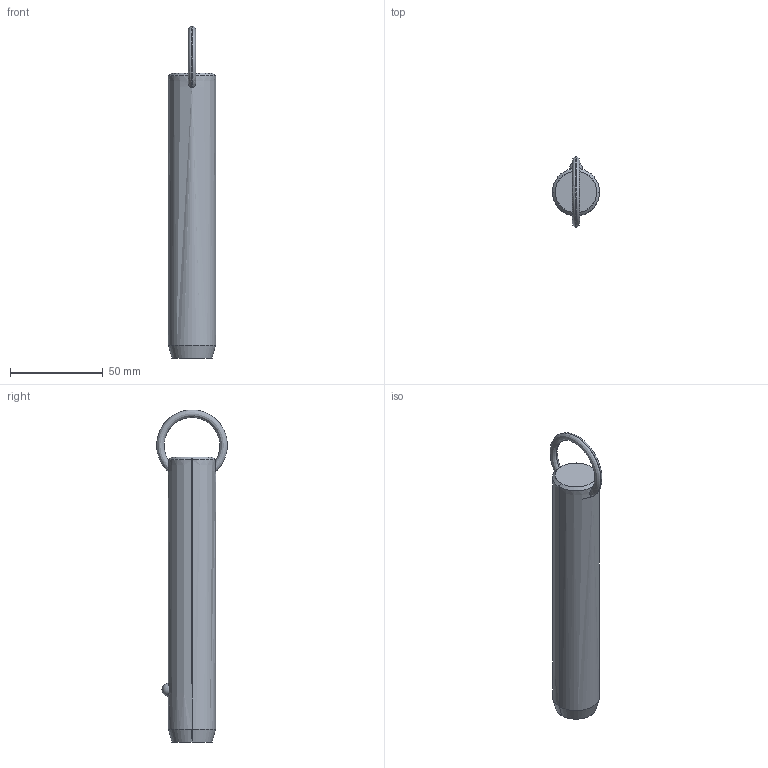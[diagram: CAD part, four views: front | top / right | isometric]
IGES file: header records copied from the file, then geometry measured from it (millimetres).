
Start section: SolidWorks IGES file using analytic representation for surfaces
Global section: file name: C:\Users\liam_\OneDrive\Documents\WORK\Work for WixRoyd\Job Files\J-00019 - Matt Davis CAD Checking\04. CAD Drawings\automotion20190605\P1250.2_v2\P1250.2_v2_20190729_IGES\P1250.100-430.igs; native system: SolidWorks 2017; preprocessor: SolidWorks 2017; author: liam_; date: 190730.173946; units: millimetre
Bounding box: 25.4 x 38.1 x 178.99 mm (x, y, z)
Surface area: 14030.1 mm2 (no closed solid volume)
Topology: 0 solids, 0 shells, 12 faces, 298 edges, 296 vertices
Faces by surface type: revolution 8, bspline 4
